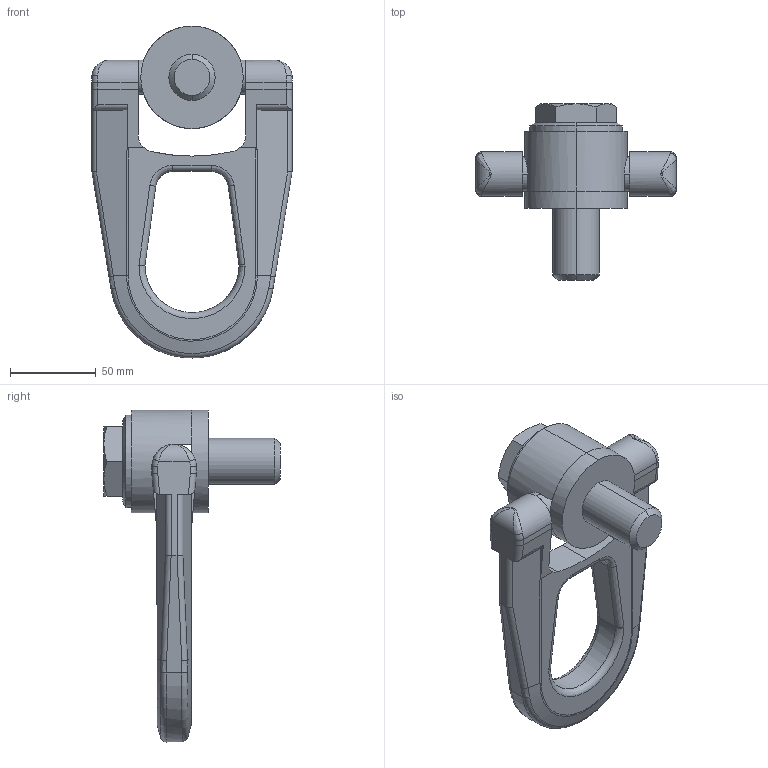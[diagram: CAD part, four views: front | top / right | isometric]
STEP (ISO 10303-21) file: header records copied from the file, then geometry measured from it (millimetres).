
FILE_DESCRIPTION (( 'STEP AP203' ), '1' );
FILE_NAME ('63200.W0027.step', '2013-12-13T15:23:56', ( 'User' ), ( '' ), 'SwSTEP 2.0', 'SolidWorks 2009', '' );
FILE_SCHEMA (( 'CONFIG_CONTROL_DESIGN' ));
Length unit declared in the file: millimetre
Products named in the file (3): 63200.W0027; Part1_63200.W0027; Part4
Assembly tree (2 placements, depth 2):
  63200.W0027
    Part4
    Part1_63200.W0027
Bounding box: 117 x 103 x 194 mm (x, y, z)
Volume: 359036.3 mm3; surface area: 59738.6 mm2
Topology: 2 solids, 2 shells, 141 faces, 353 edges, 217 vertices
Faces by surface type: cylinder 48, plane 47, bspline 26, cone 13, torus 7
Entity records: 7105 total; most frequent: CARTESIAN_POINT 3710, ORIENTED_EDGE 706, DIRECTION 583, EDGE_CURVE 353, AXIS2_PLACEMENT_3D 219, VERTEX_POINT 217, EDGE_LOOP 146, LINE 145
